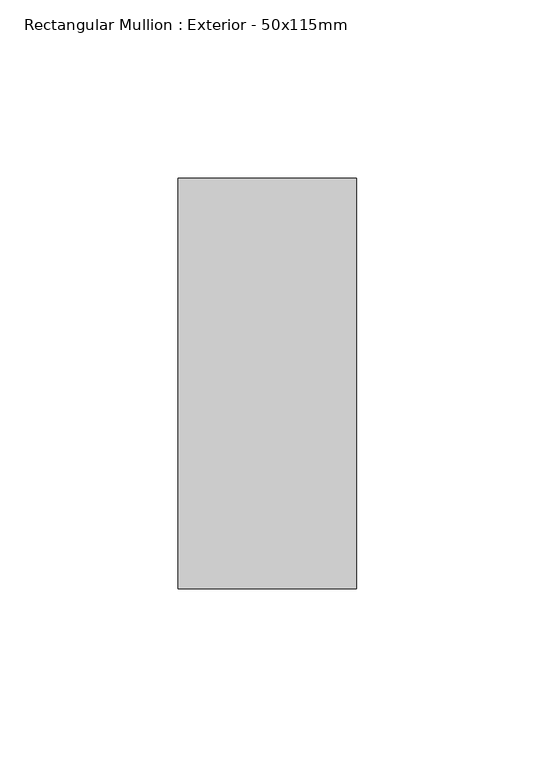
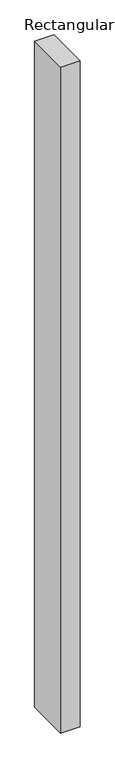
"""IFC4 building model written with IfcOpenShell, lengths in millimetres: member geometry, Rectangular Mullion : Exterior - 50x115mm."""

from ifc_helpers import new_model, si_unit, frame, origin, place, context, project, spatial, polyline, outline, extrude, source, transform, mapped, element, save


def rectangular_mullion_exterior_50x115mm_0bbc0ca7(model_context):
    return source(origin(), model_context, "Body", "SweptSolid", [
        extrude(outline(polyline([(0.0, 115.0), (0.0, 0.0), (-50.0, 0.0), (-50.0, 115.0), (0.0, 115.0)])), frame((0.0, 0.0, -1810.0), z_axis=(0.0, 0.0, 1.0), x_axis=(1.0, 0.0, 0.0)), (0.0, 0.0, 1.0), 1810.0),
    ])


if __name__ == "__main__":
    model = new_model("IFC4")
    model_context = context("Model", 3, world=origin())
    ifc_project = project(units=[si_unit("LENGTHUNIT", "METRE", prefix="MILLI")], contexts=[model_context])
    site = spatial("IfcSite", under=ifc_project)
    building = spatial("IfcBuilding", under=site)
    placement = place(None, origin())
    rectangular_mullion_exterior_50x115mm_shape = rectangular_mullion_exterior_50x115mm_0bbc0ca7(model_context)
    element("IfcMember", 1, ObjectType="Rectangular Mullion : Exterior - 50x115mm", at=placement, inside=building, context=model_context, shape_type="MappedRepresentation", body=[
        mapped(rectangular_mullion_exterior_50x115mm_shape, transform((0.0, 0.0, 0.0), x_axis=(1.0, 0.0, 0.0), y_axis=(0.0, 1.0, 0.0), z_axis=(0.0, 0.0, 1.0))),
    ])
    save(model, "model.ifc")
